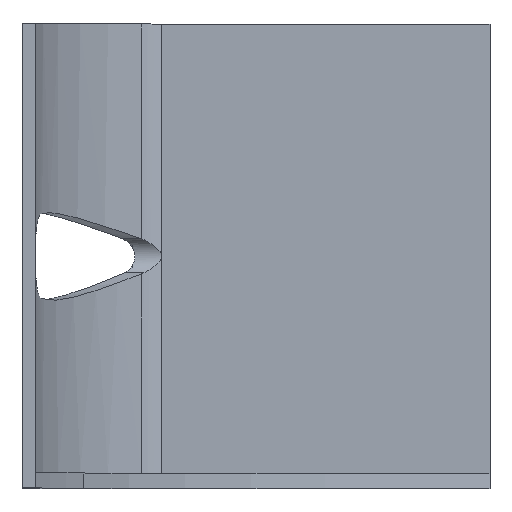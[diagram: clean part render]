
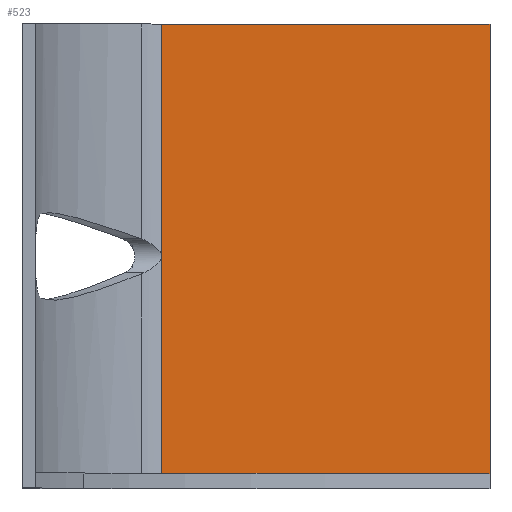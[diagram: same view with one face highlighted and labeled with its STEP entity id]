
A CAD part, top view. The second image highlights one B-rep face of the part: STEP entity #523.
In plain terms, the highlighted planar face has unit normal (0, 0, 1).
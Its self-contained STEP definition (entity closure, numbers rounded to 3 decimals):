
#28=PLANE('',#583);
#64=FACE_OUTER_BOUND('',#93,.T.);
#93=EDGE_LOOP('',(#420,#421,#422,#423,#424));
#122=LINE('',#976,#161);
#137=LINE('',#1014,#176);
#138=LINE('',#1018,#177);
#139=LINE('',#1020,#178);
#140=LINE('',#1021,#179);
#161=VECTOR('',#644,10.);
#176=VECTOR('',#681,10.);
#177=VECTOR('',#686,10.);
#178=VECTOR('',#687,10.);
#179=VECTOR('',#688,10.);
#222=VERTEX_POINT('',#802);
#234=VERTEX_POINT('',#974);
#246=VERTEX_POINT('',#1013);
#247=VERTEX_POINT('',#1017);
#248=VERTEX_POINT('',#1019);
#291=EDGE_CURVE('',#234,#222,#122,.T.);
#310=EDGE_CURVE('',#222,#246,#137,.T.);
#312=EDGE_CURVE('',#234,#247,#138,.T.);
#313=EDGE_CURVE('',#247,#248,#139,.T.);
#314=EDGE_CURVE('',#248,#246,#140,.T.);
#420=ORIENTED_EDGE('',*,*,#312,.T.);
#421=ORIENTED_EDGE('',*,*,#313,.T.);
#422=ORIENTED_EDGE('',*,*,#314,.T.);
#423=ORIENTED_EDGE('',*,*,#310,.F.);
#424=ORIENTED_EDGE('',*,*,#291,.F.);
#523=ADVANCED_FACE('',(#64),#28,.F.);
#583=AXIS2_PLACEMENT_3D('',#1016,#684,#685);
#644=DIRECTION('',(0.,1.,0.));
#681=DIRECTION('',(0.,1.,0.));
#684=DIRECTION('center_axis',(0.,0.,-1.));
#685=DIRECTION('ref_axis',(-1.,0.,0.));
#686=DIRECTION('',(1.,0.,0.));
#687=DIRECTION('',(0.,1.,0.));
#688=DIRECTION('',(-1.,0.,0.));
#802=CARTESIAN_POINT('',(-45.8,122.5,-109.264));
#974=CARTESIAN_POINT('',(-45.8,8.,-109.264));
#976=CARTESIAN_POINT('',(-45.8,0.,-109.264));
#1013=CARTESIAN_POINT('',(-45.8,245.,-109.264));
#1014=CARTESIAN_POINT('',(-45.8,0.,-109.264));
#1016=CARTESIAN_POINT('Origin',(127.311,0.,-109.264));
#1017=CARTESIAN_POINT('',(127.311,8.,-109.264));
#1018=CARTESIAN_POINT('',(-45.8,8.,-109.264));
#1019=CARTESIAN_POINT('',(127.311,245.,-109.264));
#1020=CARTESIAN_POINT('',(127.311,0.,-109.264));
#1021=CARTESIAN_POINT('',(127.311,245.,-109.264));
